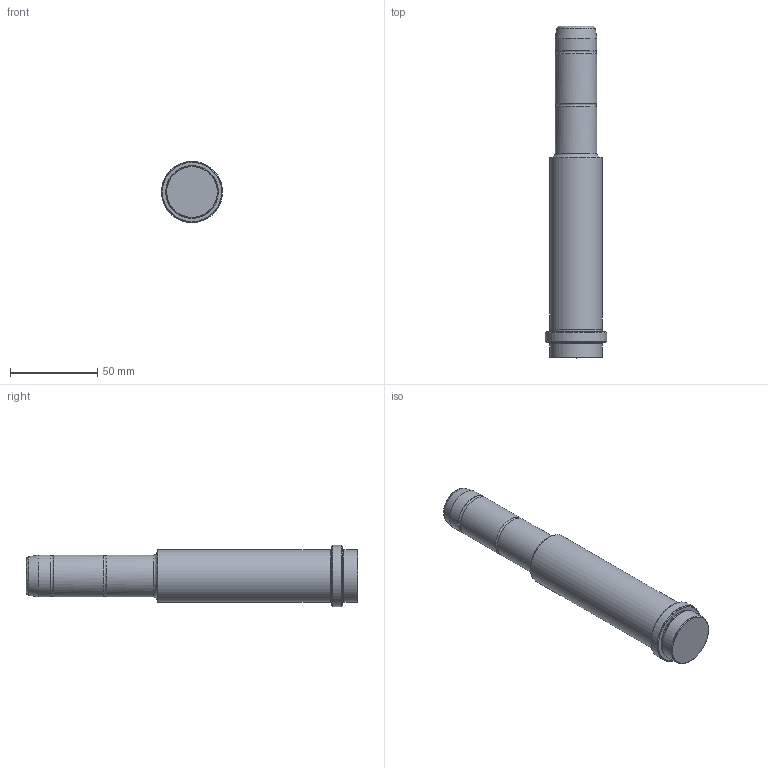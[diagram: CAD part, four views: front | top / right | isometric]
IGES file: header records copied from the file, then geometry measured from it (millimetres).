
Start section: Missler Software BP 521, 31674 Labege Cedex, France Tel   : +33 (0)5 61 00 03 00 Fax   : +33 (0)5 61 00 03 03 Email : sup.topsolid@topsolid.com
Global section: file name: D:\Cuma\24 03 2009\D03\D03_24X106X75.igs; native system: TopSolid v605250 Missler Software; preprocessor: IGES preprocessor v100000; date: 030101.002507; units: millimetre
Bounding box: 34.98 x 190 x 35 mm (x, y, z)
Surface area: 18348.8 mm2 (no closed solid volume)
Topology: 0 solids, 0 shells, 24 faces, 449 edges, 434 vertices
Faces by surface type: bspline 24
